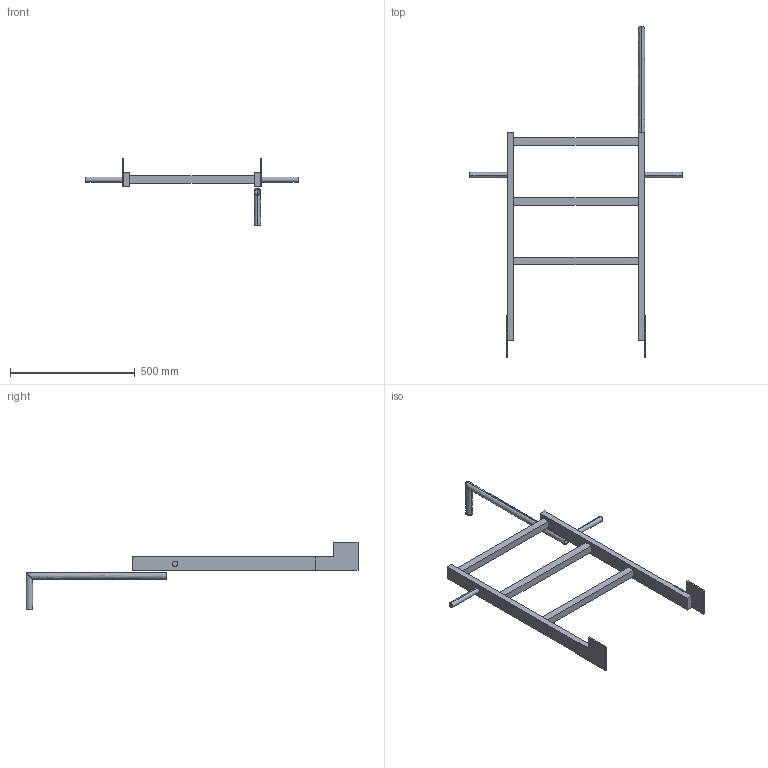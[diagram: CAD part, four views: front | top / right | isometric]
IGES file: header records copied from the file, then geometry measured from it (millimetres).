
Start section:  PTC IGES file: 52331442.igs
Global section: file name: 52331442.igs; native system: Creo Parametric by PTC Inc.; preprocessor: 2022162; author: wep; organization: Unknown; date: 20241218.093336; units: millimetre
Bounding box: 850 x 1330.45 x 271.35 mm (x, y, z)
Surface area: 626121.8 mm2 (no closed solid volume)
Topology: 0 solids, 0 shells, 56 faces, 280 edges, 280 vertices
Faces by surface type: bspline 44, revolution 12
